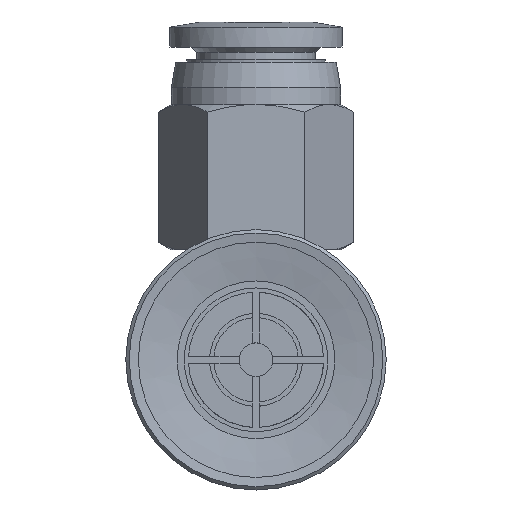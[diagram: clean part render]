
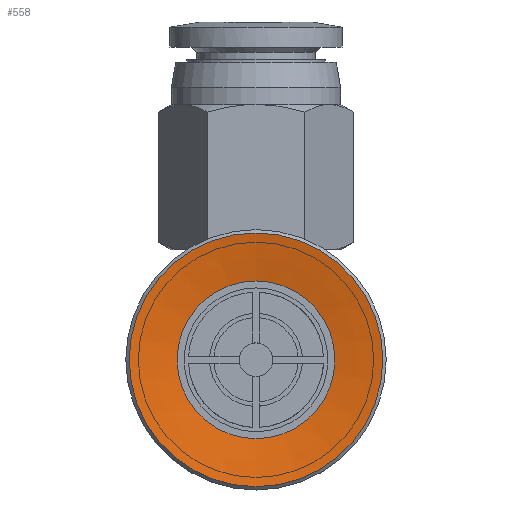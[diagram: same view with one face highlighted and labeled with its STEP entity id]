
A CAD part, front view. The second image highlights one B-rep face of the part: STEP entity #558.
In plain terms, the highlighted conical face has half-angle 80 degrees and reference radius 4.664 mm.
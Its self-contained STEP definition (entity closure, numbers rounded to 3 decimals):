
#558=ADVANCED_FACE('',(#903,#904),#905,.F.);
#903=FACE_BOUND('',#1382,.T.);
#904=FACE_OUTER_BOUND('',#1383,.T.);
#905=CONICAL_SURFACE('',#1384,4.664,1.396);
#1382=EDGE_LOOP('',(#2521));
#1383=EDGE_LOOP('',(#2522));
#1384=AXIS2_PLACEMENT_3D('',#2523,#2524,#2525);
#2521=ORIENTED_EDGE('',*,*,#3359,.F.);
#2522=ORIENTED_EDGE('',*,*,#3361,.T.);
#2523=CARTESIAN_POINT('',(0.0,0.5,0.0));
#2524=DIRECTION('',(-0.0,-1.0,0.));
#2525=DIRECTION('',(0.0,0.,-1.0));
#3359=EDGE_CURVE('',#3885,#3885,#3886,.T.);
#3361=EDGE_CURVE('',#3888,#3888,#3889,.T.);
#3885=VERTEX_POINT('',#4975);
#3886=CIRCLE('',#4976,4.664);
#3888=VERTEX_POINT('',#4978);
#3889=CIRCLE('',#4979,7.5);
#4975=CARTESIAN_POINT('',(0.0,0.5,-4.664));
#4976=AXIS2_PLACEMENT_3D('',#5921,#5922,#5923);
#4978=CARTESIAN_POINT('',(0.0,0.,-7.5));
#4979=AXIS2_PLACEMENT_3D('',#5927,#5928,#5929);
#5921=CARTESIAN_POINT('',(0.0,0.5,0.0));
#5922=DIRECTION('',(0.0,-1.0,0.));
#5923=DIRECTION('',(0.0,0.,-1.0));
#5927=CARTESIAN_POINT('',(0.0,0.0,0.0));
#5928=DIRECTION('',(0.0,-1.0,0.));
#5929=DIRECTION('',(0.0,0.,-1.0));
